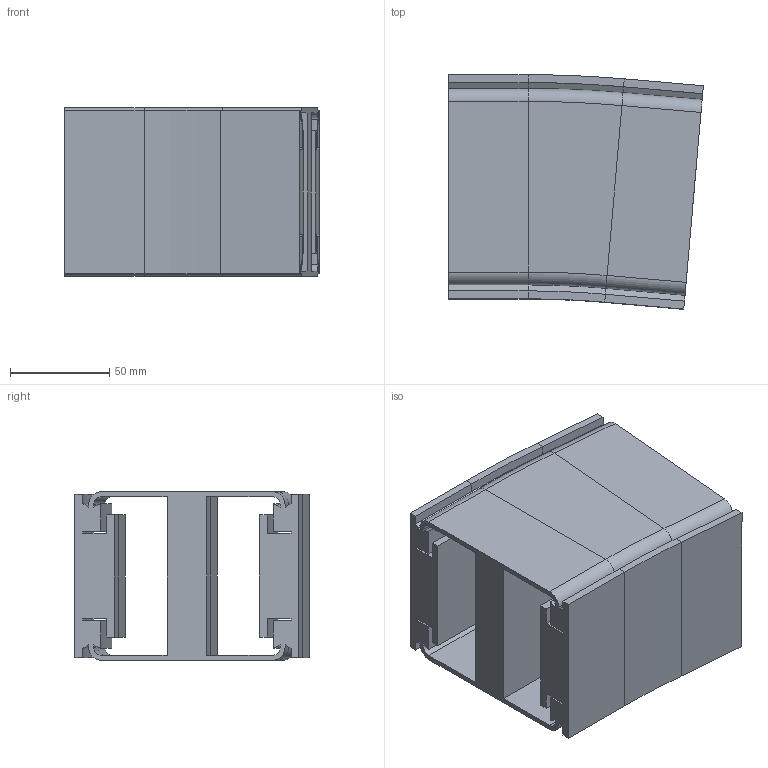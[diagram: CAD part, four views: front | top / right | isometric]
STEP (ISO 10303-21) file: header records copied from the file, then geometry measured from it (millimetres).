
FILE_DESCRIPTION (( 'STEP AP214' ), '1' );
FILE_NAME ('VC.85 Verticale bochtsectie.R500 5.STEP', '2017-02-08T08:13:06', ( '' ), ( '' ), 'SwSTEP 2.0', 'SolidWorks 2016', '' );
FILE_SCHEMA (( 'AUTOMOTIVE_DESIGN' ));
Length unit declared in the file: millimetre
Products named in the file (1): VC.85 Verticale bochtsectie.R500 5
Bounding box: 128.35 x 118.17 x 85 mm (x, y, z)
Volume: 589375.7 mm3; surface area: 144134.6 mm2
Topology: 1 solids, 1 shells, 206 faces, 476 edges, 272 vertices
Faces by surface type: plane 144, cylinder 46, cone 8, torus 8
Entity records: 5674 total; most frequent: DIRECTION 990, CARTESIAN_POINT 955, ORIENTED_EDGE 952, EDGE_CURVE 476, LINE 376, VECTOR 376, AXIS2_PLACEMENT_3D 307, VERTEX_POINT 272
